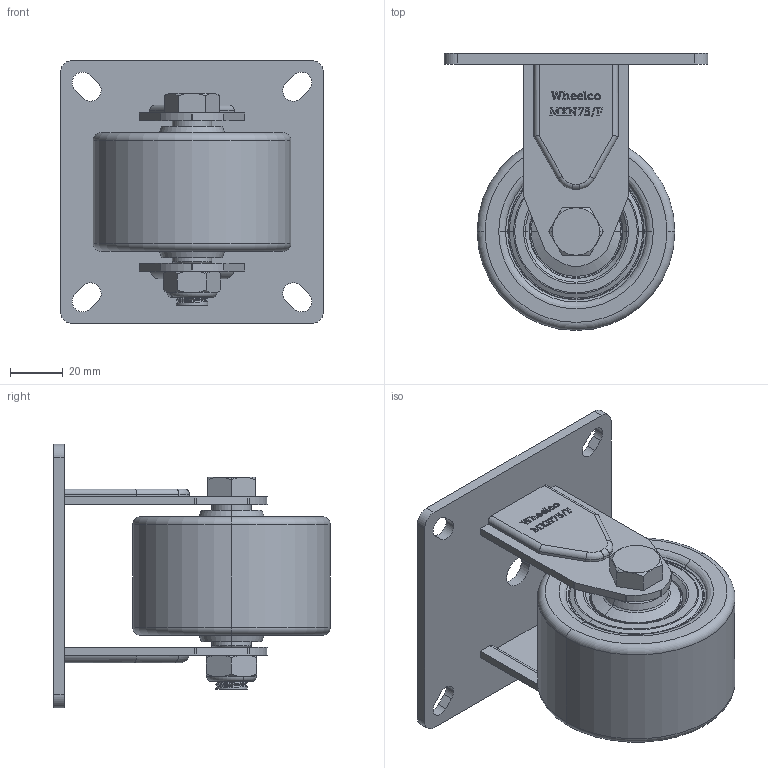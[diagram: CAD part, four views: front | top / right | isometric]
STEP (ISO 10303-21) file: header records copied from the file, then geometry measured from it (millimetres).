
FILE_DESCRIPTION (( 'STEP AP214' ), '1' );
FILE_NAME ('MXN75-F.step', '2024-01-17T23:02:05', ( '' ), ( '' ), 'SwSTEP 2.0', 'SolidWorks 2022', '' );
FILE_SCHEMA (( 'AUTOMOTIVE_DESIGN' ));
Length unit declared in the file: millimetre
Products named in the file (6): MXN75; MXN75-F; M12 X 80; M12NYLOC; SP15-12-55
Assembly tree (5 placements, depth 2):
  MXN75-F
    MXN75-F
    MXN75
    M12 X 80
    M12NYLOC
    SP15-12-55
Bounding box: 100 x 105 x 100 mm (x, y, z)
Volume: 255930.8 mm3; surface area: 66271.7 mm2
Topology: 5 solids, 5 shells, 569 faces, 1515 edges, 985 vertices
Faces by surface type: plane 285, cylinder 126, bspline 80, torus 46, cone 32
Entity records: 27065 total; most frequent: CARTESIAN_POINT 12503, ORIENTED_EDGE 3030, DIRECTION 2476, EDGE_CURVE 1515, VERTEX_POINT 985, LINE 936, VECTOR 936, AXIS2_PLACEMENT_3D 770
